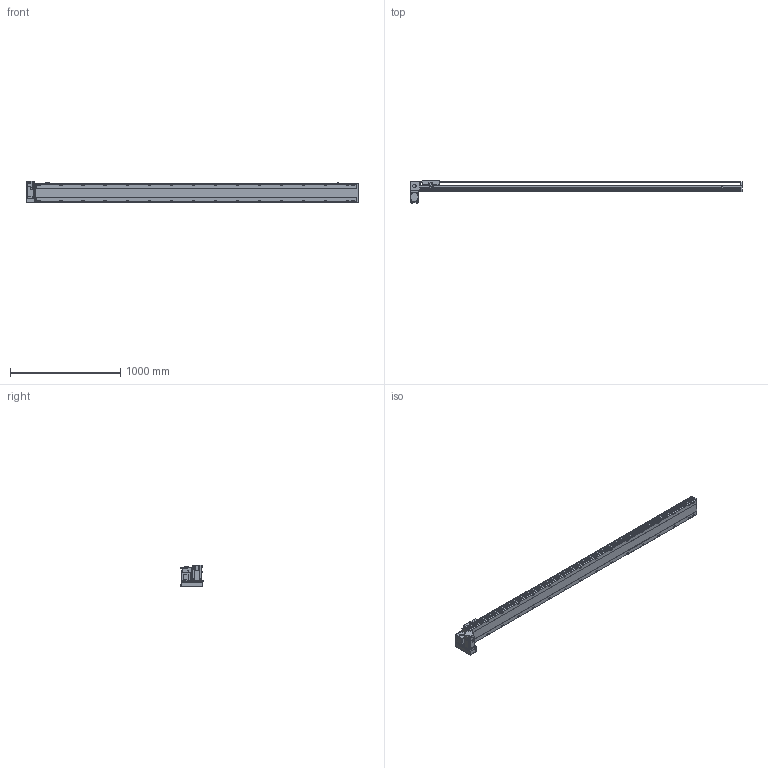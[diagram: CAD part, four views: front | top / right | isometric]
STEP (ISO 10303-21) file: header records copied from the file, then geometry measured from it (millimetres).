
FILE_DESCRIPTION(/* description */ ('STEP AP214'),/* implementation_level */ '2;1');
FILE_NAME(/* name */ 'PBS170-P40-S2650-LD-T75-C1-N(0)',/* time_stamp */ '2022-06-07T09:56:32+02:00',/* author */ ('License CC BY-ND 4.0'),/* organization */ ('CADENAS'),/* preprocessor_version */ 'ST-DEVELOPER v18.102',/* originating_system */ 'PARTsolutions',/* authorisation */ ' ');
FILE_SCHEMA (('AUTOMOTIVE_DESIGN {1 0 10303 214 3 1 1}'));
Length unit declared in the file: millimetre
Products named in the file (7): PBS170-P40-S2650-LD-T75-C1-N(0); PBS170_sensor; PBS170_plant; PBS170_sliser; T75-p1; PBS170T-LD_motors; PBS170-S2650()_body
Assembly tree (8 placements, depth 2):
  PBS170-P40-S2650-LD-T75-C1-N(0)
    PBS170_sensor  x3
    PBS170_plant
    PBS170_sliser
    T75-p1
    PBS170T-LD_motors
    PBS170-S2650()_body
Bounding box: 3013 x 201 x 197.3 mm (x, y, z)
Volume: 22744425.9 mm3; surface area: 2859692.9 mm2
Topology: 8 solids, 8 shells, 1210 faces, 3195 edges, 2082 vertices
Faces by surface type: plane 735, cylinder 403, cone 62, sphere 8, torus 2
Full cylindrical faces by diameter (mm): 3.242 x4, 4 x2, 4.4 x4, 4.5 x6, 4.917 x4, 6 x9, 6.647 x40, 7 x2, 7.5 x4, 8 x8, 8.5 x32, 10 x4, 10.5 x32, 11 x2, 30 x2, 40 x1, 70 x1
Entity records: 34782 total; most frequent: CARTESIAN_POINT 6609, DIRECTION 5860, ORIENTED_EDGE 5508, EDGE_CURVE 2754, AXIS2_PLACEMENT_3D 2077, VERTEX_POINT 1922, LINE 1706, VECTOR 1706
